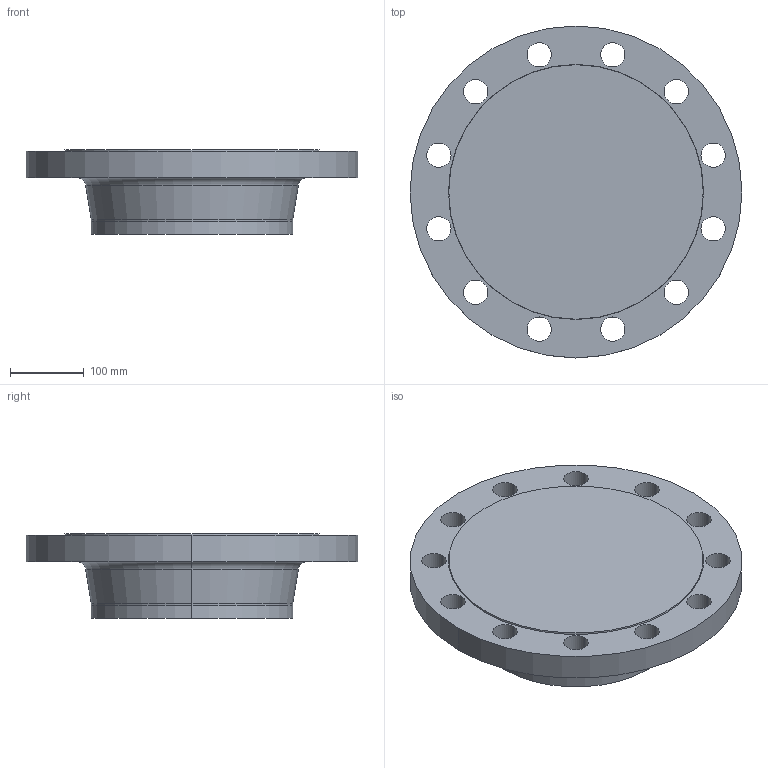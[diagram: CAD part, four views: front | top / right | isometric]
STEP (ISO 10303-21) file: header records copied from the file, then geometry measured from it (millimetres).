
FILE_DESCRIPTION (( 'STEP AP214' ), '1' );
FILE_NAME ('PN40 DN250 Type 21(ii) - Type B Face.STEP', '2019-01-05T15:50:55', ( '' ), ( '' ), 'SwSTEP 2.0', 'SolidWorks 2019', '' );
FILE_SCHEMA (( 'AUTOMOTIVE_DESIGN' ));
Length unit declared in the file: millimetre
Products named in the file (1): PN40 DN250 Type 21(ii) - Type B Face
Bounding box: 450 x 450 x 115 mm (x, y, z)
Volume: 10306031.5 mm3; surface area: 452046.8 mm2
Topology: 1 solids, 1 shells, 40 faces, 102 edges, 66 vertices
Faces by surface type: cylinder 28, torus 4, cone 4, plane 4
Entity records: 1330 total; most frequent: DIRECTION 254, CARTESIAN_POINT 209, ORIENTED_EDGE 204, AXIS2_PLACEMENT_3D 111, EDGE_CURVE 102, CIRCLE 70, EDGE_LOOP 66, VERTEX_POINT 66
